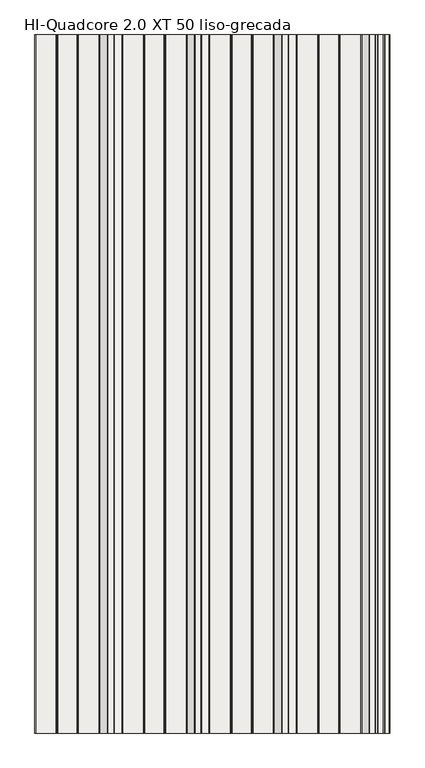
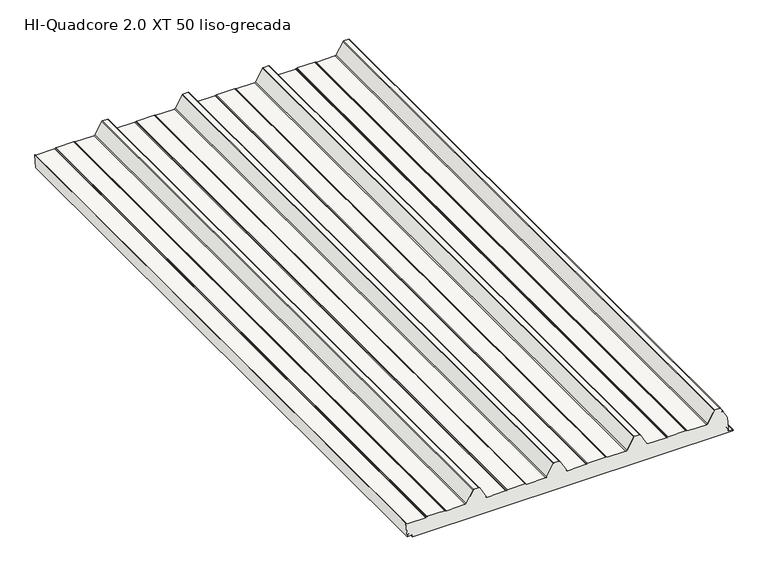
"""IFC4 building model written with IfcOpenShell, lengths in millimetres: slab geometry, HI_QuadCore2.0XT-XT DUAL : HI-Quadcore 2.0 XT 50 liso-grecada."""

from ifc_helpers import new_model, si_unit, point, frame, frame_2d, origin, place, context, project, spatial, polyline, circle_curve, trimmed, segment, composite_curve, outline, extrude, source, transform, mapped, element, save


def hi_quadcore_2_0_xt_50_liso_grecada_4b62e7a8(model_context):
    return source(origin(), model_context, "Body", "SweptSolid", [
        extrude(outline(composite_curve([segment(polyline([(51.2667387, 1181.036551), (77.9197266, 1166.0442453)]), True, "CONTINUOUS"), segment(trimmed(circle_curve(frame_2d((76.9392041, 1164.3010942)), 2.0), [point((77.9197266, 1166.0442453))], [point((75.939301, 1166.033201))], True, "CARTESIAN"), True, "CONTINUOUS"), segment(polyline([(75.939301, 1166.033201), (74.3282068, 1165.1031555), (74.7281681, 1164.4103128), (76.3392623, 1165.3403583)]), True, "CONTINUOUS"), segment(trimmed(circle_curve(frame_2d((76.9392041, 1164.3010942)), 1.2), [point((76.3392623, 1165.3403583))], [point((77.5275176, 1165.3469849))], False, "CARTESIAN"), True, "CONTINUOUS"), segment(polyline([(77.5275176, 1165.3469849), (88.0785747, 1159.4120152)]), True, "CONTINUOUS"), segment(trimmed(circle_curve(frame_2d((87.0, 1157.4945491)), 2.2), [point((88.0785747, 1159.4120152))], [point((89.2, 1157.4945491))], False, "CARTESIAN"), True, "CONTINUOUS"), segment(polyline([(89.2, 1157.4945491), (89.2, 1142.1184247)]), True, "CONTINUOUS"), segment(trimmed(circle_curve(frame_2d((87.0, 1142.1184247)), 2.2), [point((89.2, 1142.1184247))], [point((88.0662182, 1140.1940602))], False, "CARTESIAN"), True, "CONTINUOUS"), segment(polyline([(88.0662182, 1140.1940602), (51.1583504, 1119.7447946)]), True, "CONTINUOUS"), segment(trimmed(circle_curve(frame_2d((53.0, 1116.4208923)), 3.8), [point((51.1583504, 1119.7447946))], [point((49.2, 1116.4208923))], True, "CARTESIAN"), True, "CONTINUOUS"), segment(polyline([(49.2, 1116.4208923), (49.2, 1057.5510443)]), True, "CONTINUOUS"), segment(trimmed(circle_curve(frame_2d((53.0, 1057.5510443)), 3.8), [point((49.2, 1057.5510443))], [point((49.6973596, 1055.671532))], True, "CARTESIAN"), True, "CONTINUOUS"), segment(polyline([(49.6973596, 1055.671532), (50.912055, 1053.5370944)]), True, "CONTINUOUS"), segment(trimmed(circle_curve(frame_2d((49.0, 1052.4489557)), 2.2), [point((50.912055, 1053.5370944))], [point((51.2, 1052.4489557))], False, "CARTESIAN"), True, "CONTINUOUS"), segment(polyline([(51.2, 1052.4489557), (51.2, 997.5510443)]), True, "CONTINUOUS"), segment(trimmed(circle_curve(frame_2d((49.0, 997.5510443)), 2.2), [point((51.2, 997.5510443))], [point((50.912055, 996.4629056))], False, "CARTESIAN"), True, "CONTINUOUS"), segment(polyline([(50.912055, 996.4629056), (49.6973596, 994.328468)]), True, "CONTINUOUS"), segment(trimmed(circle_curve(frame_2d((53.0, 992.4489557)), 3.8), [point((49.6973596, 994.328468))], [point((49.2, 992.4489557))], True, "CARTESIAN"), True, "CONTINUOUS"), segment(polyline([(49.2, 992.4489557), (49.2, 934.2545425)]), True, "CONTINUOUS"), segment(trimmed(circle_curve(frame_2d((53.0, 934.2545425)), 3.8), [point((49.2, 934.2545425))], [point((51.1370073, 930.9425554))], True, "CARTESIAN"), True, "CONTINUOUS"), segment(polyline([(51.1370073, 930.9425554), (88.0785747, 910.1629237)]), True, "CONTINUOUS"), segment(trimmed(circle_curve(frame_2d((87.0, 908.2454575)), 2.2), [point((88.0785747, 910.1629237))], [point((89.2, 908.2454575))], False, "CARTESIAN"), True, "CONTINUOUS"), segment(polyline([(89.2, 908.2454575), (89.2, 891.7545425)]), True, "CONTINUOUS"), segment(trimmed(circle_curve(frame_2d((87.0, 891.7545425)), 2.2), [point((89.2, 891.7545425))], [point((88.0785747, 889.8370763))], False, "CARTESIAN"), True, "CONTINUOUS"), segment(polyline([(88.0785747, 889.8370763), (51.1370073, 869.0574446)]), True, "CONTINUOUS"), segment(trimmed(circle_curve(frame_2d((53.0, 865.7454575)), 3.8), [point((51.1370073, 869.0574446))], [point((49.2, 865.7454575))], True, "CARTESIAN"), True, "CONTINUOUS"), segment(polyline([(49.2, 865.7454575), (49.2, 807.5510443)]), True, "CONTINUOUS"), segment(trimmed(circle_curve(frame_2d((53.0, 807.5510443)), 3.8), [point((49.2, 807.5510443))], [point((49.6973596, 805.671532))], True, "CARTESIAN"), True, "CONTINUOUS"), segment(polyline([(49.6973596, 805.671532), (50.912055, 803.5370944)]), True, "CONTINUOUS"), segment(trimmed(circle_curve(frame_2d((49.0, 802.4489557)), 2.2), [point((50.912055, 803.5370944))], [point((51.2, 802.4489557))], False, "CARTESIAN"), True, "CONTINUOUS"), segment(polyline([(51.2, 802.4489557), (51.2, 747.5510443)]), True, "CONTINUOUS"), segment(trimmed(circle_curve(frame_2d((49.0, 747.5510443)), 2.2), [point((51.2, 747.5510443))], [point((50.912055, 746.4629056))], False, "CARTESIAN"), True, "CONTINUOUS"), segment(polyline([(50.912055, 746.4629056), (49.6973596, 744.328468)]), True, "CONTINUOUS"), segment(trimmed(circle_curve(frame_2d((53.0, 742.4489557)), 3.8), [point((49.6973596, 744.328468))], [point((49.2, 742.4489557))], True, "CARTESIAN"), True, "CONTINUOUS"), segment(polyline([(49.2, 742.4489557), (49.2, 684.2545425)]), True, "CONTINUOUS"), segment(trimmed(circle_curve(frame_2d((53.0, 684.2545425)), 3.8), [point((49.2, 684.2545425))], [point((51.1370073, 680.9425554))], True, "CARTESIAN"), True, "CONTINUOUS"), segment(polyline([(51.1370073, 680.9425554), (88.0785747, 660.1629237)]), True, "CONTINUOUS"), segment(trimmed(circle_curve(frame_2d((87.0, 658.2454575)), 2.2), [point((88.0785747, 660.1629237))], [point((89.2, 658.2454575))], False, "CARTESIAN"), True, "CONTINUOUS"), segment(polyline([(89.2, 658.2454575), (89.2, 641.7545425)]), True, "CONTINUOUS"), segment(trimmed(circle_curve(frame_2d((87.0, 641.7545425)), 2.2), [point((89.2, 641.7545425))], [point((88.0785747, 639.8370763))], False, "CARTESIAN"), True, "CONTINUOUS"), segment(polyline([(88.0785747, 639.8370763), (51.1370073, 619.0574446)]), True, "CONTINUOUS"), segment(trimmed(circle_curve(frame_2d((53.0, 615.7454575)), 3.8), [point((51.1370073, 619.0574446))], [point((49.2, 615.7454575))], True, "CARTESIAN"), True, "CONTINUOUS"), segment(polyline([(49.2, 615.7454575), (49.2, 557.5510443)]), True, "CONTINUOUS"), segment(trimmed(circle_curve(frame_2d((53.0, 557.5510443)), 3.8), [point((49.2, 557.5510443))], [point((49.6973596, 555.671532))], True, "CARTESIAN"), True, "CONTINUOUS"), segment(polyline([(49.6973596, 555.671532), (50.912055, 553.5370944)]), True, "CONTINUOUS"), segment(trimmed(circle_curve(frame_2d((49.0, 552.4489557)), 2.2), [point((50.912055, 553.5370944))], [point((51.2, 552.4489557))], False, "CARTESIAN"), True, "CONTINUOUS"), segment(polyline([(51.2, 552.4489557), (51.2, 497.5510443)]), True, "CONTINUOUS"), segment(trimmed(circle_curve(frame_2d((49.0, 497.5510443)), 2.2), [point((51.2, 497.5510443))], [point((50.912055, 496.4629056))], False, "CARTESIAN"), True, "CONTINUOUS"), segment(polyline([(50.912055, 496.4629056), (49.6973596, 494.328468)]), True, "CONTINUOUS"), segment(trimmed(circle_curve(frame_2d((53.0, 492.4489557)), 3.8), [point((49.6973596, 494.328468))], [point((49.2, 492.4489557))], True, "CARTESIAN"), True, "CONTINUOUS"), segment(polyline([(49.2, 492.4489557), (49.2, 434.2545425)]), True, "CONTINUOUS"), segment(trimmed(circle_curve(frame_2d((53.0, 434.2545425)), 3.8), [point((49.2, 434.2545425))], [point((51.1370073, 430.9425554))], True, "CARTESIAN"), True, "CONTINUOUS"), segment(polyline([(51.1370073, 430.9425554), (88.0785747, 410.1629237)]), True, "CONTINUOUS"), segment(trimmed(circle_curve(frame_2d((87.0, 408.2454575)), 2.2), [point((88.0785747, 410.1629237))], [point((89.2, 408.2454575))], False, "CARTESIAN"), True, "CONTINUOUS"), segment(polyline([(89.2, 408.2454575), (89.2, 391.7545425)]), True, "CONTINUOUS"), segment(trimmed(circle_curve(frame_2d((87.0, 391.7545425)), 2.2), [point((89.2, 391.7545425))], [point((88.0785747, 389.8370763))], False, "CARTESIAN"), True, "CONTINUOUS"), segment(polyline([(88.0785747, 389.8370763), (51.1370073, 369.0574446)]), True, "CONTINUOUS"), segment(trimmed(circle_curve(frame_2d((53.0, 365.7454575)), 3.8), [point((51.1370073, 369.0574446))], [point((49.2, 365.7454575))], True, "CARTESIAN"), True, "CONTINUOUS"), segment(polyline([(49.2, 365.7454575), (49.2, 307.5510443)]), True, "CONTINUOUS"), segment(trimmed(circle_curve(frame_2d((53.0, 307.5510443)), 3.8), [point((49.2, 307.5510443))], [point((49.6973596, 305.671532))], True, "CARTESIAN"), True, "CONTINUOUS"), segment(polyline([(49.6973596, 305.671532), (50.912055, 303.5370944)]), True, "CONTINUOUS"), segment(trimmed(circle_curve(frame_2d((49.0, 302.4489557)), 2.2), [point((50.912055, 303.5370944))], [point((51.2, 302.4489557))], False, "CARTESIAN"), True, "CONTINUOUS"), segment(polyline([(51.2, 302.4489557), (51.2, 247.5510443)]), True, "CONTINUOUS"), segment(trimmed(circle_curve(frame_2d((49.0, 247.5510443)), 2.2), [point((51.2, 247.5510443))], [point((50.912055, 246.4629056))], False, "CARTESIAN"), True, "CONTINUOUS"), segment(polyline([(50.912055, 246.4629056), (49.6973596, 244.328468)]), True, "CONTINUOUS"), segment(trimmed(circle_curve(frame_2d((53.0, 242.4489557)), 3.8), [point((49.6973596, 244.328468))], [point((49.2, 242.4489557))], True, "CARTESIAN"), True, "CONTINUOUS"), segment(polyline([(49.2, 242.4489557), (49.2, 184.6545425)]), True, "CONTINUOUS"), segment(trimmed(circle_curve(frame_2d((53.0, 184.6545425)), 3.8), [point((49.2, 184.6545425))], [point((51.2048889, 181.3052775))], True, "CARTESIAN"), True, "CONTINUOUS"), segment(polyline([(51.2048889, 181.3052775), (7.0308356, 184.4622222), (7.2414508, 185.8457731), (11.9758652, 185.8456419)]), True, "CONTINUOUS"), segment(trimmed(circle_curve(frame_2d((11.9759207, 187.8456418)), 2.0), [point((11.9758652, 185.8456419))], [point((13.390095, 186.4313891))], True, "CARTESIAN"), True, "CONTINUOUS"), segment(polyline([(13.390095, 186.4313891), (15.4963556, 188.5375329), (14.9306702, 189.1032183), (12.8244253, 186.9970902)]), True, "CONTINUOUS"), segment(trimmed(circle_curve(frame_2d((11.9759207, 187.8456418)), 1.2), [point((12.8244253, 186.9970902))], [point((11.9758874, 186.6456418))], False, "CARTESIAN"), True, "CONTINUOUS"), segment(polyline([(11.9758874, 186.6456418), (8.3337062, 186.6457428)]), True, "CONTINUOUS"), segment(trimmed(circle_curve(frame_2d((8.3337394, 187.8457428)), 1.2), [point((8.3337062, 186.6457428))], [point((7.1369439, 187.7581044))], False, "CARTESIAN"), True, "CONTINUOUS"), segment(polyline([(7.1369439, 187.7581044), (6.3740035, 198.1768616)]), True, "CONTINUOUS"), segment(trimmed(circle_curve(frame_2d((3.5874027, 197.9032632)), 2.8), [point((6.3740035, 198.1768616))], [point((3.5874804, 200.7032632))], True, "CARTESIAN"), True, "CONTINUOUS"), segment(polyline([(3.5874804, 200.7032632), (1.9756233, 200.7033079)]), True, "CONTINUOUS"), segment(trimmed(circle_curve(frame_2d((1.9756562, 201.9033076)), 1.1999997), [point((1.9756233, 200.7033079))], [point((0.7756565, 201.9033408))], False, "CARTESIAN"), True, "CONTINUOUS"), segment(polyline([(0.7756565, 201.9033408), (0.8032689, 1197.9136557)]), True, "CONTINUOUS"), segment(trimmed(circle_curve(frame_2d((2.0032353, 1197.9046782)), 1.2), [point((0.8032689, 1197.9136557))], [point((2.0032686, 1199.1046782))], False, "CARTESIAN"), True, "CONTINUOUS"), segment(polyline([(2.0032686, 1199.1046782), (2.9118044, 1199.104653)]), True, "CONTINUOUS"), segment(trimmed(circle_curve(frame_2d((2.9117711, 1197.9046533)), 1.1999997), [point((2.9118044, 1199.104653))], [point((4.1105786, 1197.9581323))], False, "CARTESIAN"), True, "CONTINUOUS"), segment(polyline([(4.1105786, 1197.9581323), (5.0061949, 1186.1323972)]), True, "CONTINUOUS"), segment(trimmed(circle_curve(frame_2d((7.7981993, 1186.3438482)), 2.8), [point((5.0061949, 1186.1323972))], [point((7.7981217, 1183.5438482))], True, "CARTESIAN"), True, "CONTINUOUS"), segment(polyline([(7.7981217, 1183.5438482), (11.7460458, 1183.5455151)]), True, "CONTINUOUS"), segment(trimmed(circle_curve(frame_2d((11.7411592, 1182.3429645)), 1.2025605), [point((11.7460458, 1183.5455151))], [point((12.5937174, 1183.1910778))], False, "CARTESIAN"), True, "CONTINUOUS"), segment(polyline([(12.5937174, 1183.1910778), (14.0134457, 1181.7779905), (14.5791311, 1182.3436759), (13.1649724, 1183.757913), (51.2667387, 1181.036551)]), True, "CONTINUOUS")], self_intersect=False)), frame((0.0, 0.0, 0.0), z_axis=(0.0, 1.0, 0.0), x_axis=(0.0, 0.0, 1.0)), (0.0, 0.0, 1.0), 2000.0),
    ])


if __name__ == "__main__":
    model = new_model("IFC4")
    model_context = context("Model", 3, world=origin())
    ifc_project = project(units=[si_unit("LENGTHUNIT", "METRE", prefix="MILLI")], contexts=[model_context])
    site = spatial("IfcSite", under=ifc_project)
    building = spatial("IfcBuilding", under=site)
    placement = place(None, origin())
    hi_quadcore_2_0_xt_50_liso_grecada_shape = hi_quadcore_2_0_xt_50_liso_grecada_4b62e7a8(model_context)
    element("IfcSlab", 1, ObjectType="HI_QuadCore2.0XT-XT DUAL : HI-Quadcore 2.0 XT 50 liso-grecada", at=placement, inside=building, context=model_context, shape_type="MappedRepresentation", body=[
        mapped(hi_quadcore_2_0_xt_50_liso_grecada_shape, transform((0.0, 0.0, 0.0), x_axis=(1.0, 0.0, 0.0), y_axis=(0.0, 1.0, 0.0), z_axis=(0.0, 0.0, 1.0))),
    ])
    save(model, "model.ifc")
